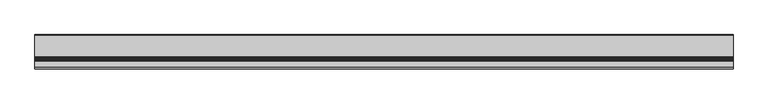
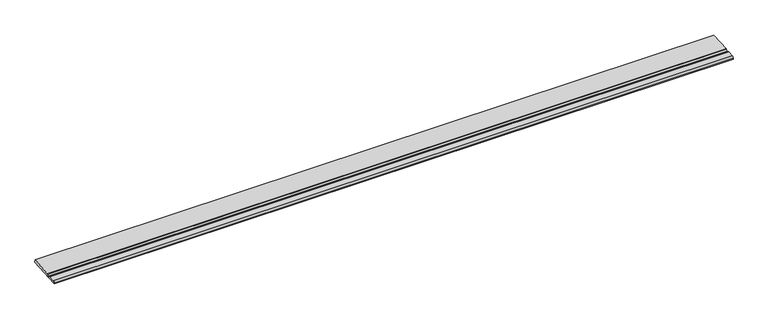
"""IFC4 building model written with IfcOpenShell, lengths in millimetres: proxy geometry, Muestra 6.32m 647 Anti-Slip : Muestra 6.32m 647 Anti-Slip."""

from ifc_helpers import new_model, si_unit, point, frame, frame_2d, origin, place, context, project, spatial, polyline, circle_curve, trimmed, segment, composite_curve, outline, extrude, source, transform, mapped, element, save


def generic_models_b1896c54(model_context):
    return source(origin(), model_context, "Body", "SweptSolid", [
        extrude(outline(composite_curve([segment(polyline([(-6994.5198165, -6.9), (-7306.2912557, -32.276745), (-7306.9808561, -23.8045114)]), True, "CONTINUOUS"), segment(trimmed(circle_curve(frame_2d((-7290.9237993, -23.0310067)), 16.0756768), [point((-7306.9808561, -23.8045114))], [point((-7293.4120347, -7.1490652))], False, "CARTESIAN"), True, "CONTINUOUS"), segment(polyline([(-7293.4120347, -7.1490652), (-7236.2617167, -2.4972951)]), True, "CONTINUOUS"), segment(trimmed(circle_curve(frame_2d((-7235.9654702, -6.1368949)), 3.6516365), [point((-7236.2617167, -2.4972951))], [point((-7232.5458482, -4.8560224))], False, "CARTESIAN"), True, "CONTINUOUS"), segment(polyline([(-7232.5458482, -4.8560224), (-7229.0247996, -9.8846009)]), True, "CONTINUOUS"), segment(trimmed(circle_curve(frame_2d((-7220.9757167, -4.2485724)), 9.8261159), [point((-7229.0247996, -9.8846009))], [point((-7221.5046735, -14.0604406))], True, "CARTESIAN"), True, "CONTINUOUS"), segment(polyline([(-7221.5046735, -14.0604406), (-7210.96716, -13.202736)]), True, "CONTINUOUS"), segment(trimmed(circle_curve(frame_2d((-7214.5199218, 2.6992093)), 16.293986), [point((-7210.96716, -13.202736))], [point((-7199.079313, -2.5047871))], True, "CARTESIAN"), True, "CONTINUOUS"), segment(trimmed(circle_curve(frame_2d((-7194.3411817, -4.1016942)), 5.0), [point((-7199.079313, -2.5047871))], [point((-7194.746817, 0.8818246))], False, "CARTESIAN"), True, "CONTINUOUS"), segment(polyline([(-7194.746817, 0.8818246), (-6996.4668658, 17.0208904), (-6994.5198165, -6.9)]), True, "CONTINUOUS")], self_intersect=False)), frame((138174.7684798, 0.0, 0.0), z_axis=(1.0, 0.0, 0.0), x_axis=(0.0, 1.0, 0.0)), (0.0, 0.0, 1.0), 6320.0),
    ])


if __name__ == "__main__":
    model = new_model("IFC4")
    model_context = context("Model", 3, world=origin())
    ifc_project = project(units=[si_unit("LENGTHUNIT", "METRE", prefix="MILLI")], contexts=[model_context])
    site = spatial("IfcSite", under=ifc_project)
    building = spatial("IfcBuilding", under=site)
    placement = place(None, origin())
    generic_models_shape = generic_models_b1896c54(model_context)
    element("IfcBuildingElementProxy", 1, Name="Muestra 6.32m 647 Anti-Slip : Muestra 6.32m 647 Anti-Slip", ObjectType="Muestra 6.32m 647 Anti-Slip : Muestra 6.32m 647 Anti-Slip", at=placement, inside=building, context=model_context, shape_type="MappedRepresentation", body=[
        mapped(generic_models_shape, transform((0.0, 0.0, 0.0), x_axis=(1.0, 0.0, 0.0), y_axis=(0.0, 1.0, 0.0), z_axis=(0.0, 0.0, 1.0))),
    ])
    save(model, "model.ifc")
